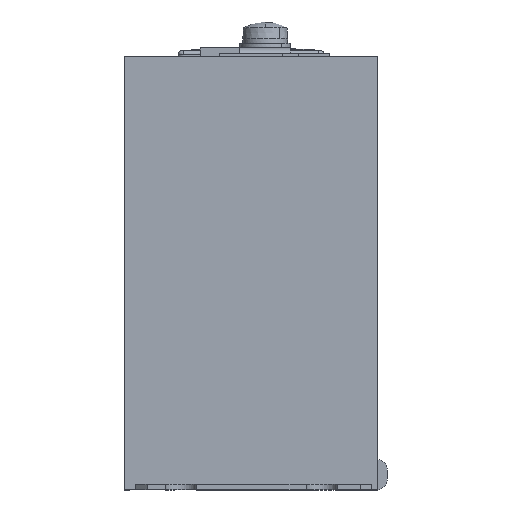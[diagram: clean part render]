
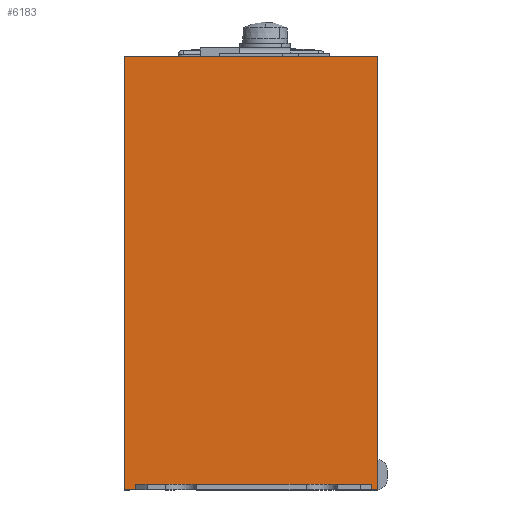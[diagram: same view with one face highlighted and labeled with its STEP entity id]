
A CAD part, front view. The second image highlights one B-rep face of the part: STEP entity #6183.
In plain terms, the highlighted planar face has unit normal (0, -1, 0).
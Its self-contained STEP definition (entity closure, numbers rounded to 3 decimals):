
#26 = CARTESIAN_POINT ( 'NONE',  ( 22.5, -229.5, 77. ) ) ;
#91 = DIRECTION ( 'NONE',  ( 0., -1., 0. ) ) ;
#262 = VECTOR ( 'NONE', #3088, 1000. ) ;
#293 = VECTOR ( 'NONE', #1531, 1000. ) ;
#304 = CARTESIAN_POINT ( 'NONE',  ( 22.5, -229.5, 0. ) ) ;
#363 = CARTESIAN_POINT ( 'NONE',  ( -20.5, -229.5, 1. ) ) ;
#445 = LINE ( 'NONE', #4116, #293 ) ;
#544 = VERTEX_POINT ( 'NONE', #3425 ) ;
#658 = DIRECTION ( 'NONE',  ( 1., 0., 0. ) ) ;
#941 = ORIENTED_EDGE ( 'NONE', *, *, #6491, .F. ) ;
#978 = ORIENTED_EDGE ( 'NONE', *, *, #3303, .T. ) ;
#1004 = VECTOR ( 'NONE', #6653, 1000. ) ;
#1016 = CARTESIAN_POINT ( 'NONE',  ( 21.4, -229.5, 0. ) ) ;
#1107 = LINE ( 'NONE', #2771, #1764 ) ;
#1244 = EDGE_CURVE ( 'NONE', #4943, #4422, #1735, .T. ) ;
#1393 = EDGE_CURVE ( 'NONE', #4971, #1714, #445, .T. ) ;
#1531 = DIRECTION ( 'NONE',  ( -1., 0., 0. ) ) ;
#1630 = EDGE_LOOP ( 'NONE', ( #941, #5907, #2970, #978, #5135, #2011, #2996, #6213 ) ) ;
#1714 = VERTEX_POINT ( 'NONE', #5194 ) ;
#1735 = LINE ( 'NONE', #4833, #2675 ) ;
#1738 = LINE ( 'NONE', #3345, #4897 ) ;
#1764 = VECTOR ( 'NONE', #3831, 1000. ) ;
#2011 = ORIENTED_EDGE ( 'NONE', *, *, #1393, .F. ) ;
#2083 = AXIS2_PLACEMENT_3D ( 'NONE', #2124, #91, #658 ) ;
#2124 = CARTESIAN_POINT ( 'NONE',  ( -257.474, -229.5, 77. ) ) ;
#2191 = LINE ( 'NONE', #5251, #4499 ) ;
#2493 = LINE ( 'NONE', #6727, #1004 ) ;
#2675 = VECTOR ( 'NONE', #4867, 1000. ) ;
#2771 = CARTESIAN_POINT ( 'NONE',  ( -257.474, -229.5, 77. ) ) ;
#2831 = EDGE_CURVE ( 'NONE', #4943, #4971, #3020, .T. ) ;
#2966 = CARTESIAN_POINT ( 'NONE',  ( 21.4, -229.5, 0. ) ) ;
#2970 = ORIENTED_EDGE ( 'NONE', *, *, #6375, .F. ) ;
#2977 = DIRECTION ( 'NONE',  ( 0., 0., -1. ) ) ;
#2996 = ORIENTED_EDGE ( 'NONE', *, *, #2831, .F. ) ;
#3020 = LINE ( 'NONE', #1016, #262 ) ;
#3040 = CARTESIAN_POINT ( 'NONE',  ( 21.4, -229.5, 1. ) ) ;
#3088 = DIRECTION ( 'NONE',  ( 0., 0., 1. ) ) ;
#3236 = VERTEX_POINT ( 'NONE', #26 ) ;
#3303 = EDGE_CURVE ( 'NONE', #4184, #5183, #2191, .T. ) ;
#3345 = CARTESIAN_POINT ( 'NONE',  ( -22.5, -229.5, 77. ) ) ;
#3425 = CARTESIAN_POINT ( 'NONE',  ( -22.5, -229.5, 77. ) ) ;
#3667 = VECTOR ( 'NONE', #2977, 1000. ) ;
#3757 = FACE_OUTER_BOUND ( 'NONE', #1630, .T. ) ;
#3820 = DIRECTION ( 'NONE',  ( 0., 0., 1. ) ) ;
#3831 = DIRECTION ( 'NONE',  ( 1., 0., 0. ) ) ;
#4116 = CARTESIAN_POINT ( 'NONE',  ( -257.474, -229.5, 1. ) ) ;
#4184 = VERTEX_POINT ( 'NONE', #6475 ) ;
#4376 = LINE ( 'NONE', #363, #3667 ) ;
#4422 = VERTEX_POINT ( 'NONE', #304 ) ;
#4499 = VECTOR ( 'NONE', #4840, 1000. ) ;
#4833 = CARTESIAN_POINT ( 'NONE',  ( -257.474, -229.5, 0. ) ) ;
#4840 = DIRECTION ( 'NONE',  ( 1., 0., 0. ) ) ;
#4867 = DIRECTION ( 'NONE',  ( 1., 0., 0. ) ) ;
#4897 = VECTOR ( 'NONE', #3820, 1000. ) ;
#4943 = VERTEX_POINT ( 'NONE', #2966 ) ;
#4971 = VERTEX_POINT ( 'NONE', #3040 ) ;
#5071 = CARTESIAN_POINT ( 'NONE',  ( -20.5, -229.5, 0. ) ) ;
#5135 = ORIENTED_EDGE ( 'NONE', *, *, #5541, .F. ) ;
#5183 = VERTEX_POINT ( 'NONE', #5071 ) ;
#5194 = CARTESIAN_POINT ( 'NONE',  ( -20.5, -229.5, 1. ) ) ;
#5218 = PLANE ( 'NONE',  #2083 ) ;
#5251 = CARTESIAN_POINT ( 'NONE',  ( -257.474, -229.5, 0. ) ) ;
#5541 = EDGE_CURVE ( 'NONE', #1714, #5183, #4376, .T. ) ;
#5907 = ORIENTED_EDGE ( 'NONE', *, *, #5923, .F. ) ;
#5923 = EDGE_CURVE ( 'NONE', #544, #3236, #1107, .T. ) ;
#6183 = ADVANCED_FACE ( 'NONE', ( #3757 ), #5218, .T. ) ;
#6213 = ORIENTED_EDGE ( 'NONE', *, *, #1244, .T. ) ;
#6375 = EDGE_CURVE ( 'NONE', #4184, #544, #1738, .T. ) ;
#6475 = CARTESIAN_POINT ( 'NONE',  ( -22.5, -229.5, 0. ) ) ;
#6491 = EDGE_CURVE ( 'NONE', #3236, #4422, #2493, .T. ) ;
#6653 = DIRECTION ( 'NONE',  ( 0., 0., -1. ) ) ;
#6727 = CARTESIAN_POINT ( 'NONE',  ( 22.5, -229.5, 77. ) ) ;
